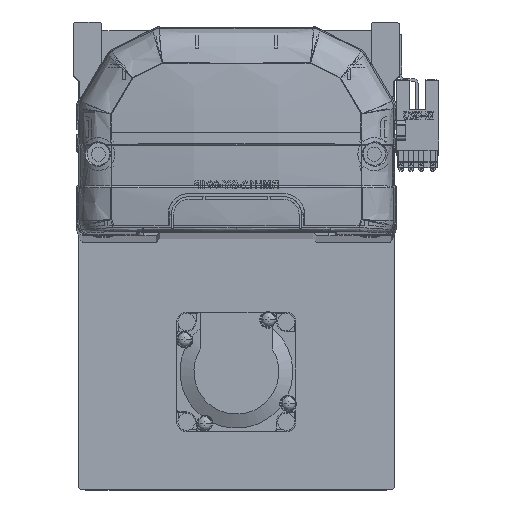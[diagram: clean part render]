
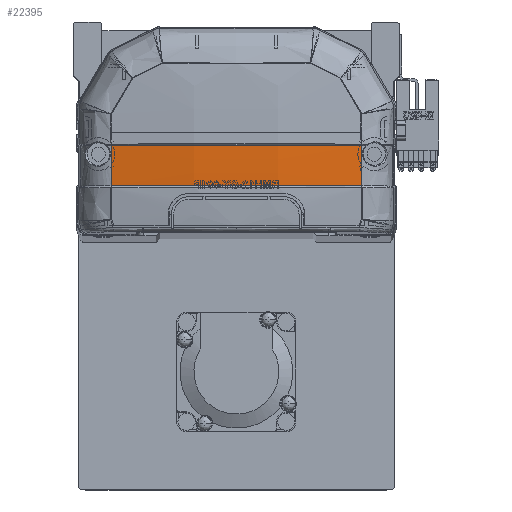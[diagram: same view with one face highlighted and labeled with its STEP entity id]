
A CAD part, top view. The second image highlights one B-rep face of the part: STEP entity #22395.
In plain terms, the highlighted free-form (B-spline) face has degree [3, 3] with [4, 4] control points.
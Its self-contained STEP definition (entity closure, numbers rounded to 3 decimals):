
#2522 = CARTESIAN_POINT ( 'NONE',  ( 40.461, 24.47, -6.231 ) ) ;
#3112 = CARTESIAN_POINT ( 'NONE',  ( 40.461, 28.832, -6.296 ) ) ;
#4913 = CARTESIAN_POINT ( 'NONE',  ( 39.963, 28.706, -6.372 ) ) ;
#5149 = EDGE_CURVE ( 'NONE', #6800, #24983, #6520, .T. ) ;
#5408 = EDGE_CURVE ( 'NONE', #12037, #25427, #51689, .T. ) ;
#5723 = FACE_OUTER_BOUND ( 'NONE', #26574, .T. ) ;
#6213 = EDGE_CURVE ( 'NONE', #6800, #25427, #57998, .T. ) ;
#6503 = CARTESIAN_POINT ( 'NONE',  ( -39.973, 20.118, -6.142 ) ) ;
#6520 = B_SPLINE_CURVE_WITH_KNOTS ( 'NONE', 3,
 ( #27919, #46609, #51487, #4913 ),
 .UNSPECIFIED., .F., .F.,
 ( 4, 4 ),
 ( 0., 1. ),
 .UNSPECIFIED. ) ;
#6800 = VERTEX_POINT ( 'NONE', #22968 ) ;
#7346 = CARTESIAN_POINT ( 'NONE',  ( -13.598, 28.769, -10.535 ) ) ;
#7735 = CARTESIAN_POINT ( 'NONE',  ( -13.384, 15.83, -8.724 ) ) ;
#10771 = B_SPLINE_CURVE_WITH_KNOTS ( 'NONE', 3,
 ( #21532, #17191, #26005, #12513, #53994, #26607 ),
 .UNSPECIFIED., .F., .F.,
 ( 4, 2, 4 ),
 ( 0., 0.5, 1. ),
 .UNSPECIFIED. ) ;
#11381 = ORIENTED_EDGE ( 'NONE', *, *, #40252, .F. ) ;
#12037 = VERTEX_POINT ( 'NONE', #35821 ) ;
#12399 = CARTESIAN_POINT ( 'NONE',  ( 39.985, 15.83, -5.879 ) ) ;
#12513 = CARTESIAN_POINT ( 'NONE',  ( 13.375, 28.707, -9.468 ) ) ;
#16059 = CARTESIAN_POINT ( 'NONE',  ( -39.963, 28.706, -6.372 ) ) ;
#16905 = CARTESIAN_POINT ( 'NONE',  ( -40.461, 24.47, -6.231 ) ) ;
#17081 = CARTESIAN_POINT ( 'NONE',  ( -26.721, 15.83, -7.624 ) ) ;
#17191 = CARTESIAN_POINT ( 'NONE',  ( -26.748, 28.706, -8.432 ) ) ;
#17272 = CARTESIAN_POINT ( 'NONE',  ( 26.761, 15.83, -7.945 ) ) ;
#18647 = ORIENTED_EDGE ( 'NONE', *, *, #6213, .F. ) ;
#20561 = CARTESIAN_POINT ( 'NONE',  ( -39.985, 15.83, -5.879 ) ) ;
#20600 = CARTESIAN_POINT ( 'NONE',  ( -39.985, 15.83, -5.879 ) ) ;
#21532 = CARTESIAN_POINT ( 'NONE',  ( -39.963, 28.706, -6.372 ) ) ;
#22032 = CARTESIAN_POINT ( 'NONE',  ( 13.598, 19.918, -10.302 ) ) ;
#22395 = ADVANCED_FACE ( 'NONE', ( #5723 ), #40043, .F. ) ;
#22968 = CARTESIAN_POINT ( 'NONE',  ( 39.985, 15.83, -5.879 ) ) ;
#24356 = ORIENTED_EDGE ( 'NONE', *, *, #5408, .T. ) ;
#24983 = VERTEX_POINT ( 'NONE', #37215 ) ;
#25427 = VERTEX_POINT ( 'NONE', #20600 ) ;
#26005 = CARTESIAN_POINT ( 'NONE',  ( -13.373, 28.707, -9.468 ) ) ;
#26128 = CARTESIAN_POINT ( 'NONE',  ( -13.598, 19.918, -10.302 ) ) ;
#26497 = CARTESIAN_POINT ( 'NONE',  ( -33.365, 15.83, -6.848 ) ) ;
#26574 = EDGE_LOOP ( 'NONE', ( #26878, #11381, #24356, #18647 ) ) ;
#26607 = CARTESIAN_POINT ( 'NONE',  ( 39.963, 28.706, -6.372 ) ) ;
#26878 = ORIENTED_EDGE ( 'NONE', *, *, #5149, .T. ) ;
#26901 = CARTESIAN_POINT ( 'NONE',  ( -39.985, 15.83, -5.879 ) ) ;
#27919 = CARTESIAN_POINT ( 'NONE',  ( 39.985, 15.83, -5.879 ) ) ;
#30983 = CARTESIAN_POINT ( 'NONE',  ( 13.598, 15.499, -10.032 ) ) ;
#35257 = CARTESIAN_POINT ( 'NONE',  ( -13.598, 24.342, -10.47 ) ) ;
#35635 = CARTESIAN_POINT ( 'NONE',  ( -6.692, 15.83, -8.984 ) ) ;
#35654 = CARTESIAN_POINT ( 'NONE',  ( -40.461, 15.757, -5.8 ) ) ;
#35821 = CARTESIAN_POINT ( 'NONE',  ( -39.963, 28.706, -6.372 ) ) ;
#37215 = CARTESIAN_POINT ( 'NONE',  ( 39.963, 28.706, -6.372 ) ) ;
#40043 =( BOUNDED_SURFACE ( )  B_SPLINE_SURFACE ( 3, 3, ( 
 ( #58822, #59005, #2522, #3112 ),
 ( #30983, #22032, #49863, #54340 ),
 ( #44587, #26128, #35257, #7346 ),
 ( #35654, #45174, #16905, #49448 ) ),
 .UNSPECIFIED., .F., .F., .F. ) 
 B_SPLINE_SURFACE_WITH_KNOTS ( ( 4, 4 ),
 ( 4, 4 ),
 ( 0., 1. ),
 ( 0., 1. ),
 .UNSPECIFIED. ) 
 GEOMETRIC_REPRESENTATION_ITEM ( )  RATIONAL_B_SPLINE_SURFACE ( (
 ( 1., 1., 1., 1.),
 ( 0.992, 0.992, 0.992, 0.992),
 ( 0.992, 0.992, 0.992, 0.992),
 ( 1., 1., 1., 1.) ) ) 
 REPRESENTATION_ITEM ( '' )  SURFACE ( )  );
#40252 = EDGE_CURVE ( 'NONE', #12037, #24983, #10771, .T. ) ;
#44128 = CARTESIAN_POINT ( 'NONE',  ( -39.966, 24.412, -6.306 ) ) ;
#44587 = CARTESIAN_POINT ( 'NONE',  ( -13.598, 15.499, -10.032 ) ) ;
#44968 = CARTESIAN_POINT ( 'NONE',  ( -23.389, 15.83, -7.947 ) ) ;
#45174 = CARTESIAN_POINT ( 'NONE',  ( -40.461, 20.111, -6.066 ) ) ;
#45357 = CARTESIAN_POINT ( 'NONE',  ( -36.679, 15.83, -6.395 ) ) ;
#46609 = CARTESIAN_POINT ( 'NONE',  ( 39.973, 20.12, -6.142 ) ) ;
#49427 = CARTESIAN_POINT ( 'NONE',  ( 13.38, 15.83, -8.984 ) ) ;
#49448 = CARTESIAN_POINT ( 'NONE',  ( -40.461, 28.832, -6.296 ) ) ;
#49863 = CARTESIAN_POINT ( 'NONE',  ( 13.598, 24.342, -10.47 ) ) ;
#51487 = CARTESIAN_POINT ( 'NONE',  ( 39.966, 24.413, -6.306 ) ) ;
#51689 = B_SPLINE_CURVE_WITH_KNOTS ( 'NONE', 3,
 ( #16059, #44128, #6503, #20561 ),
 .UNSPECIFIED., .F., .F.,
 ( 4, 4 ),
 ( 0., 1. ),
 .UNSPECIFIED. ) ;
#53994 = CARTESIAN_POINT ( 'NONE',  ( 26.749, 28.706, -8.432 ) ) ;
#54340 = CARTESIAN_POINT ( 'NONE',  ( 13.598, 28.769, -10.535 ) ) ;
#57998 = B_SPLINE_CURVE_WITH_KNOTS ( 'NONE', 3,
 ( #12399, #17272, #49427, #35635, #7735, #44968, #17081, #26497, #45357, #26901 ),
 .UNSPECIFIED., .F., .F.,
 ( 4, 2, 2, 2, 4 ),
 ( 0., 0.04, 0.06, 0.07, 0.08 ),
 .UNSPECIFIED. ) ;
#58822 = CARTESIAN_POINT ( 'NONE',  ( 40.461, 15.757, -5.8 ) ) ;
#59005 = CARTESIAN_POINT ( 'NONE',  ( 40.461, 20.111, -6.066 ) ) ;
